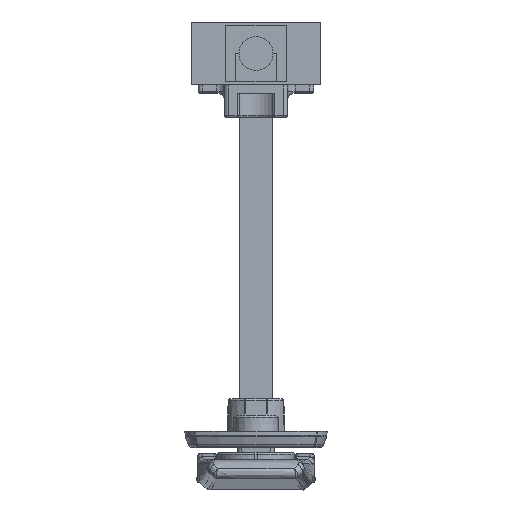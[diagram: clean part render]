
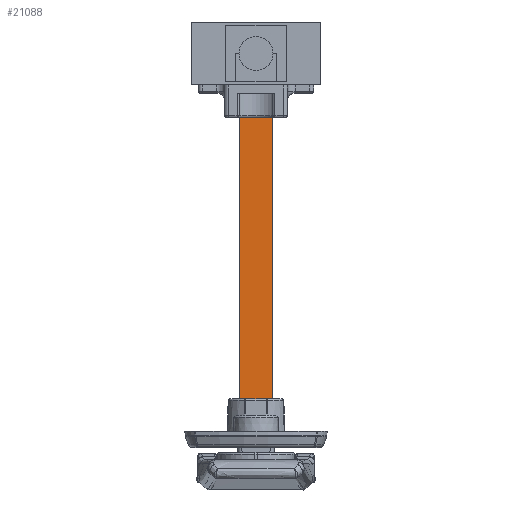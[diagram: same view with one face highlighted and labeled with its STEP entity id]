
A CAD part, front view. The second image highlights one B-rep face of the part: STEP entity #21088.
In plain terms, the highlighted planar face has unit normal (0, -1, 0) as drawn and (-1, 0, 0) by its records, which use the part's own axes.
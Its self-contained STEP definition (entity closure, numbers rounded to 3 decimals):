
#405 = DIRECTION ( 'NONE',  ( 0., 0., -1. ) ) ;
#1648 = EDGE_LOOP ( 'NONE', ( #13856, #14994 ) ) ;
#1695 = VERTEX_POINT ( 'NONE', #19120 ) ;
#1747 = CARTESIAN_POINT ( 'NONE',  ( -4., 4., 100. ) ) ;
#2045 = CIRCLE ( 'NONE', #19888, 2.25 ) ;
#2585 = EDGE_CURVE ( 'NONE', #7697, #17029, #13887, .T. ) ;
#2634 = CARTESIAN_POINT ( 'NONE',  ( -4., 0., 4. ) ) ;
#3443 = CARTESIAN_POINT ( 'NONE',  ( -4., -4., 0.5 ) ) ;
#3707 = ORIENTED_EDGE ( 'NONE', *, *, #30798, .F. ) ;
#4323 = ORIENTED_EDGE ( 'NONE', *, *, #28548, .T. ) ;
#4623 = EDGE_CURVE ( 'NONE', #28107, #26194, #26905, .T. ) ;
#4718 = DIRECTION ( 'NONE',  ( 1., 0., 0. ) ) ;
#5056 = DIRECTION ( 'NONE',  ( 0., 1., 0. ) ) ;
#5710 = CARTESIAN_POINT ( 'NONE',  ( -4., -4., 100. ) ) ;
#6909 = VECTOR ( 'NONE', #30893, 1000. ) ;
#7597 = CARTESIAN_POINT ( 'NONE',  ( -4., 0., 1.75 ) ) ;
#7697 = VERTEX_POINT ( 'NONE', #16501 ) ;
#7932 = LINE ( 'NONE', #17664, #31591 ) ;
#9087 = DIRECTION ( 'NONE',  ( 0., 0., -1. ) ) ;
#9262 = VECTOR ( 'NONE', #15907, 1000. ) ;
#10949 = VECTOR ( 'NONE', #9087, 1000. ) ;
#10986 = PLANE ( 'NONE',  #19668 ) ;
#11262 = ORIENTED_EDGE ( 'NONE', *, *, #21840, .T. ) ;
#13710 = DIRECTION ( 'NONE',  ( 0., 1., 0. ) ) ;
#13856 = ORIENTED_EDGE ( 'NONE', *, *, #25974, .T. ) ;
#13887 = LINE ( 'NONE', #1747, #10949 ) ;
#14994 = ORIENTED_EDGE ( 'NONE', *, *, #4623, .T. ) ;
#15600 = CARTESIAN_POINT ( 'NONE',  ( -4., 0., 4. ) ) ;
#15907 = DIRECTION ( 'NONE',  ( 0., 0., -1. ) ) ;
#16092 = FACE_OUTER_BOUND ( 'NONE', #17566, .T. ) ;
#16411 = CARTESIAN_POINT ( 'NONE',  ( -4., 4., 100. ) ) ;
#16501 = CARTESIAN_POINT ( 'NONE',  ( -4., 4., 99.5 ) ) ;
#17029 = VERTEX_POINT ( 'NONE', #23072 ) ;
#17566 = EDGE_LOOP ( 'NONE', ( #28829, #11262, #3707, #4323 ) ) ;
#17664 = CARTESIAN_POINT ( 'NONE',  ( -4., 4., 99.5 ) ) ;
#19120 = CARTESIAN_POINT ( 'NONE',  ( -4., -4., 99.5 ) ) ;
#19668 = AXIS2_PLACEMENT_3D ( 'NONE', #16411, #26209, #13710 ) ;
#19888 = AXIS2_PLACEMENT_3D ( 'NONE', #2634, #4718, #405 ) ;
#20231 = AXIS2_PLACEMENT_3D ( 'NONE', #15600, #20719, #25371 ) ;
#20562 = LINE ( 'NONE', #5710, #9262 ) ;
#20719 = DIRECTION ( 'NONE',  ( 1., 0., 0. ) ) ;
#20959 = LINE ( 'NONE', #23832, #6909 ) ;
#21088 = ADVANCED_FACE ( 'NONE', ( #28601, #16092 ), #10986, .F. ) ;
#21840 = EDGE_CURVE ( 'NONE', #17029, #30839, #20959, .T. ) ;
#23072 = CARTESIAN_POINT ( 'NONE',  ( -4., 4., 0.5 ) ) ;
#23832 = CARTESIAN_POINT ( 'NONE',  ( -4., 4., 0.5 ) ) ;
#25371 = DIRECTION ( 'NONE',  ( 0., 0., -1. ) ) ;
#25974 = EDGE_CURVE ( 'NONE', #26194, #28107, #2045, .T. ) ;
#26194 = VERTEX_POINT ( 'NONE', #29289 ) ;
#26209 = DIRECTION ( 'NONE',  ( 1., 0., 0. ) ) ;
#26905 = CIRCLE ( 'NONE', #20231, 2.25 ) ;
#28107 = VERTEX_POINT ( 'NONE', #7597 ) ;
#28548 = EDGE_CURVE ( 'NONE', #1695, #7697, #7932, .T. ) ;
#28601 = FACE_BOUND ( 'NONE', #1648, .T. ) ;
#28829 = ORIENTED_EDGE ( 'NONE', *, *, #2585, .T. ) ;
#29289 = CARTESIAN_POINT ( 'NONE',  ( -4., 0., 6.25 ) ) ;
#30798 = EDGE_CURVE ( 'NONE', #1695, #30839, #20562, .T. ) ;
#30839 = VERTEX_POINT ( 'NONE', #3443 ) ;
#30893 = DIRECTION ( 'NONE',  ( 0., -1., 0. ) ) ;
#31591 = VECTOR ( 'NONE', #5056, 1000. ) ;
